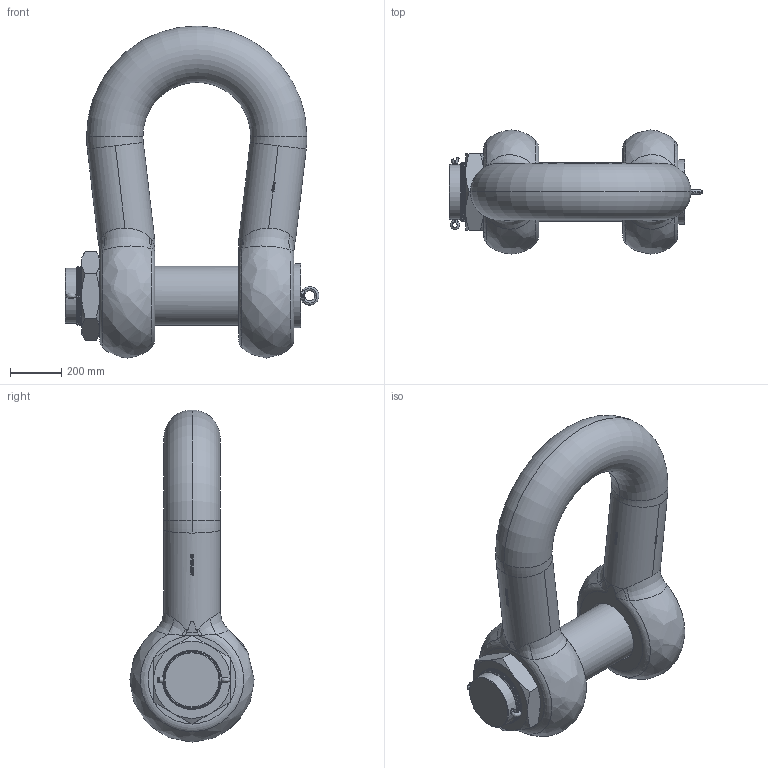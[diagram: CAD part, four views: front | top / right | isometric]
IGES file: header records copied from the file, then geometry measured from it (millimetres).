
Global section: file name: No Iges File Name specified; native system: Autodesk Inventor 2009; preprocessor: AutoDesk Inventor Iges Exporter R2009; author: Jack; date: 20091212.144036; units: millimetre
Bounding box: 991 x 485 x 1295.49 mm (x, y, z)
Volume: 159083675.7 mm3; surface area: 3563140 mm2
Topology: 5 solids, 5 shells, 834 faces, 2230 edges, 1463 vertices
Faces by surface type: plane 382, bspline 263, cylinder 113, revolution 36, torus 20, cone 20
Full cylindrical faces by diameter (mm): 230 x18
